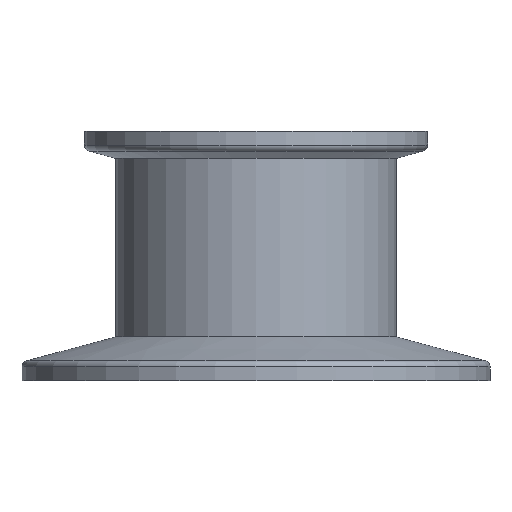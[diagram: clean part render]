
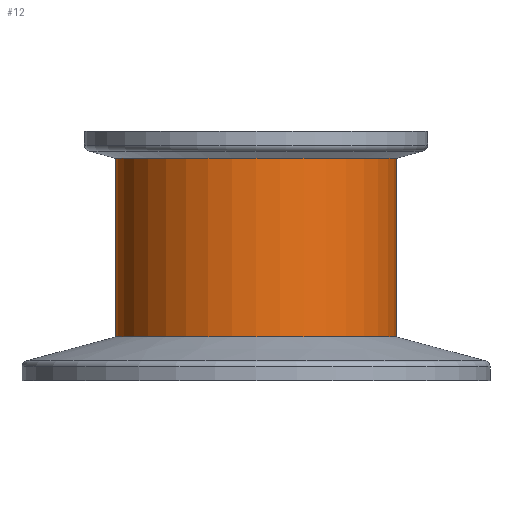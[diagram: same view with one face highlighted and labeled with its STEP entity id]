
A CAD part, left-side view. The second image highlights one B-rep face of the part: STEP entity #12.
In plain terms, the highlighted cylindrical face has radius 22.5 mm (diameter 45 mm), a partial arc.
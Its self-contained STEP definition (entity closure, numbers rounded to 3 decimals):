
#5 = CARTESIAN_POINT ( 'NONE',  ( 0., -22.5, -32.981 ) ) ;
#12 = ADVANCED_FACE ( 'NONE', ( #597 ), #23, .T. ) ;
#23 = CYLINDRICAL_SURFACE ( 'NONE', #551, 22.5 ) ;
#24 = ORIENTED_EDGE ( 'NONE', *, *, #428, .T. ) ;
#39 = EDGE_CURVE ( 'NONE', #432, #295, #44, .T. ) ;
#44 = CIRCLE ( 'NONE', #250, 22.5 ) ;
#47 = CARTESIAN_POINT ( 'NONE',  ( 0., 0., -100.14 ) ) ;
#118 = AXIS2_PLACEMENT_3D ( 'NONE', #407, #616, #667 ) ;
#143 = CARTESIAN_POINT ( 'NONE',  ( 0., 22.5, -4.34 ) ) ;
#147 = VERTEX_POINT ( 'NONE', #643 ) ;
#155 = DIRECTION ( 'NONE',  ( 0., 0., 1. ) ) ;
#157 = EDGE_LOOP ( 'NONE', ( #393, #24, #546, #507 ) ) ;
#162 = VERTEX_POINT ( 'NONE', #5 ) ;
#194 = VECTOR ( 'NONE', #205, 1000. ) ;
#205 = DIRECTION ( 'NONE',  ( 0., 0., 1. ) ) ;
#229 = CIRCLE ( 'NONE', #118, 22.5 ) ;
#250 = AXIS2_PLACEMENT_3D ( 'NONE', #372, #327, #583 ) ;
#251 = CARTESIAN_POINT ( 'NONE',  ( 0., -22.5, -100.14 ) ) ;
#295 = VERTEX_POINT ( 'NONE', #494 ) ;
#327 = DIRECTION ( 'NONE',  ( 0., 0., 1. ) ) ;
#353 = CARTESIAN_POINT ( 'NONE',  ( 0., 22.5, -100.14 ) ) ;
#372 = CARTESIAN_POINT ( 'NONE',  ( 0., 0., -4.34 ) ) ;
#379 = LINE ( 'NONE', #251, #194 ) ;
#393 = ORIENTED_EDGE ( 'NONE', *, *, #436, .F. ) ;
#407 = CARTESIAN_POINT ( 'NONE',  ( 0., 0., -32.981 ) ) ;
#428 = EDGE_CURVE ( 'NONE', #147, #162, #229, .T. ) ;
#432 = VERTEX_POINT ( 'NONE', #143 ) ;
#436 = EDGE_CURVE ( 'NONE', #147, #432, #674, .T. ) ;
#457 = VECTOR ( 'NONE', #509, 1000. ) ;
#494 = CARTESIAN_POINT ( 'NONE',  ( 0., -22.5, -4.34 ) ) ;
#507 = ORIENTED_EDGE ( 'NONE', *, *, #39, .F. ) ;
#509 = DIRECTION ( 'NONE',  ( 0., 0., 1. ) ) ;
#511 = EDGE_CURVE ( 'NONE', #162, #295, #379, .T. ) ;
#517 = DIRECTION ( 'NONE',  ( 0., -1., 0. ) ) ;
#546 = ORIENTED_EDGE ( 'NONE', *, *, #511, .T. ) ;
#551 = AXIS2_PLACEMENT_3D ( 'NONE', #47, #155, #517 ) ;
#583 = DIRECTION ( 'NONE',  ( 0., -1., 0. ) ) ;
#597 = FACE_OUTER_BOUND ( 'NONE', #157, .T. ) ;
#616 = DIRECTION ( 'NONE',  ( 0., 0., 1. ) ) ;
#643 = CARTESIAN_POINT ( 'NONE',  ( 0., 22.5, -32.981 ) ) ;
#667 = DIRECTION ( 'NONE',  ( 0., -1., 0. ) ) ;
#674 = LINE ( 'NONE', #353, #457 ) ;
